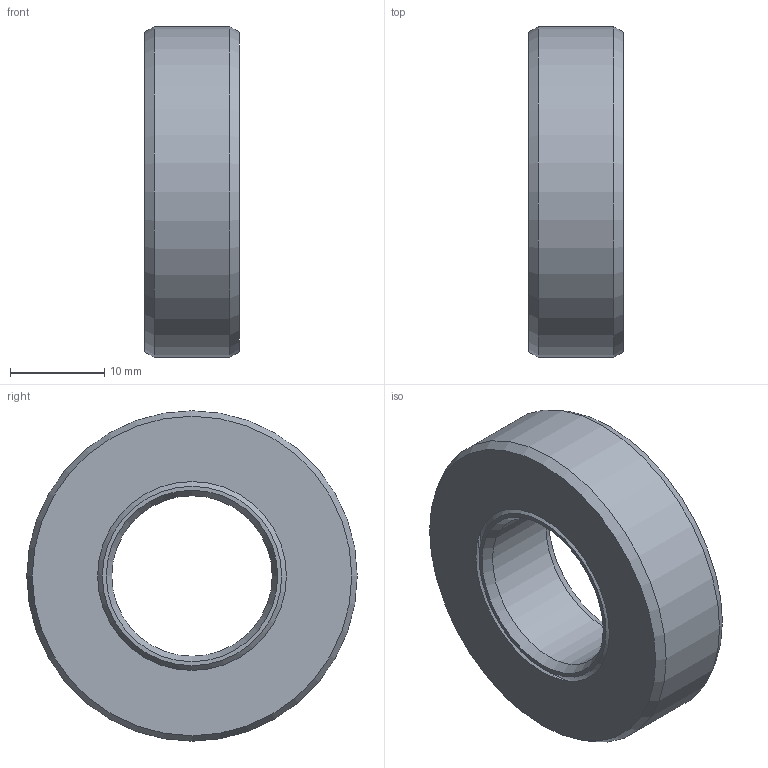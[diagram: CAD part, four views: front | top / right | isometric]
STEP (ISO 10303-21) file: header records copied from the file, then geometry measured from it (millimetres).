
FILE_DESCRIPTION(/* description */ (''),/* implementation_level */ '2;1');
FILE_NAME(/* name */ '301506 S17x35x10.stp',/* time_stamp */ '2016-12-16T13:20:26+01:00',/* author */ (''),/* organization */ (''),/* preprocessor_version */ 'ST-DEVELOPER v15',/* originating_system */ 'SIEMENS PLM Software NX 8.5',/* authorisation */ '');
FILE_SCHEMA (('CONFIG_CONTROL_DESIGN'));
Length unit declared in the file: millimetre
Products named in the file (1): ATE0000143_01
Bounding box: 10 x 35 x 35 mm (x, y, z)
Volume: 6873.8 mm3; surface area: 4758.4 mm2
Topology: 2 solids, 2 shells, 16 faces, 30 edges, 18 vertices
Faces by surface type: cone 10, plane 4, cylinder 2
Full cylindrical faces by diameter (mm): 17 x1, 35 x1
Entity records: 414 total; most frequent: DIRECTION 66, CARTESIAN_POINT 49, AXIS2_PLACEMENT_3D 33, FACE_BOUND 32, EDGE_LOOP 32, ORIENTED_EDGE 32, ADVANCED_FACE 16, VERTEX_POINT 16
